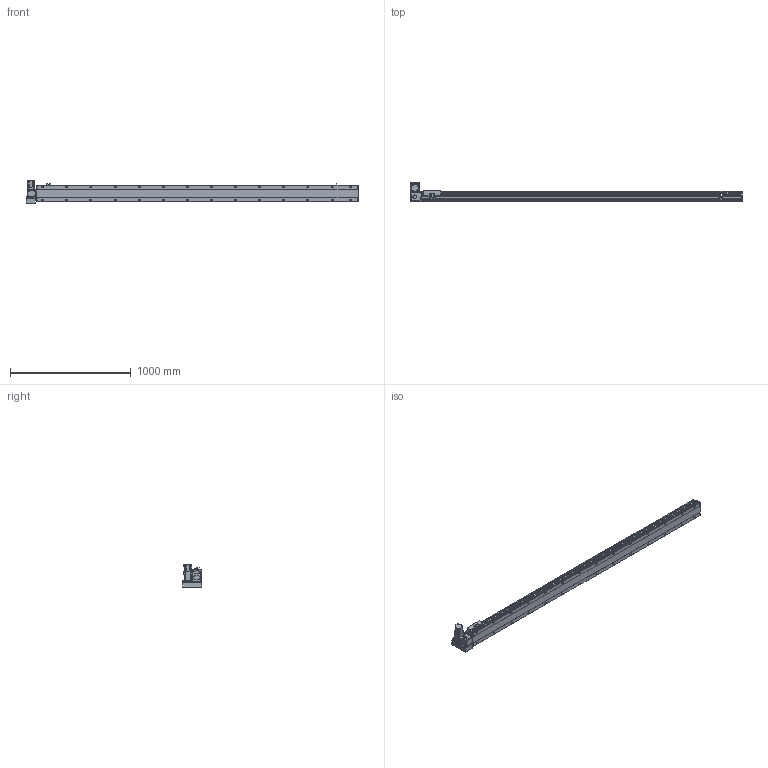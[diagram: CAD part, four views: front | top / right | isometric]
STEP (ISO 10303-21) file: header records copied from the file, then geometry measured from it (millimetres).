
FILE_DESCRIPTION( ( 'STEP AP214' ), '1' );
FILE_NAME( 'x:/temp/worker_6/temp/exporttempdir_5396_154_AvBjH/format_0/PBS140S-P40-S2400-LU-T40-C1-N(0).stp', '2022-06-09T00:36:26', ( 'License CC BY-ND 4.0' ), ( 'CADENAS' ), ' ', 'PARTsolutions', ' ' );
FILE_SCHEMA( ( 'AUTOMOTIVE_DESIGN { 1 0 10303 214 1 1 1 1 }' ) );
Length unit declared in the file: millimetre
Products named in the file (7): PBS140S-P40-S2400-LU-T40-C1-N(0); _PBS140S-S2400()_body; _PBS140ST-LU_motors; _T40-p1; _PBS140S_sliser; _PBS140S_plant; _PBS140S_sensor
Assembly tree (8 placements, depth 2):
  PBS140S-P40-S2400-LU-T40-C1-N(0)
    _PBS140S-S2400()_body
    _PBS140ST-LU_motors
    _T40-p1
    _PBS140S_sliser
    _PBS140S_plant
    _PBS140S_sensor  x3
Bounding box: 2754 x 162.5 x 189.7 mm (x, y, z)
Volume: 13415032.6 mm3; surface area: 2262175.5 mm2
Topology: 8 solids, 8 shells, 1195 faces, 3151 edges, 2061 vertices
Faces by surface type: plane 738, cylinder 393, cone 54, sphere 8, torus 2
Full cylindrical faces by diameter (mm): 3.242 x4, 4 x2, 4.134 x4, 4.4 x8, 4.5 x2, 4.8 x4, 4.917 x36, 5.5 x7, 6 x2, 7 x30, 7.5 x8, 8 x12, 8.5 x4, 10.5 x28, 14 x1, 30 x2, 50 x2
Entity records: 44188 total; most frequent: CARTESIAN_POINT 7414, DIRECTION 5768, ORIENTED_EDGE 5422, EDGE_CURVE 2711, AXIS2_PLACEMENT_3D 2039, VERTEX_POINT 1897, LINE 1690, VECTOR 1690
